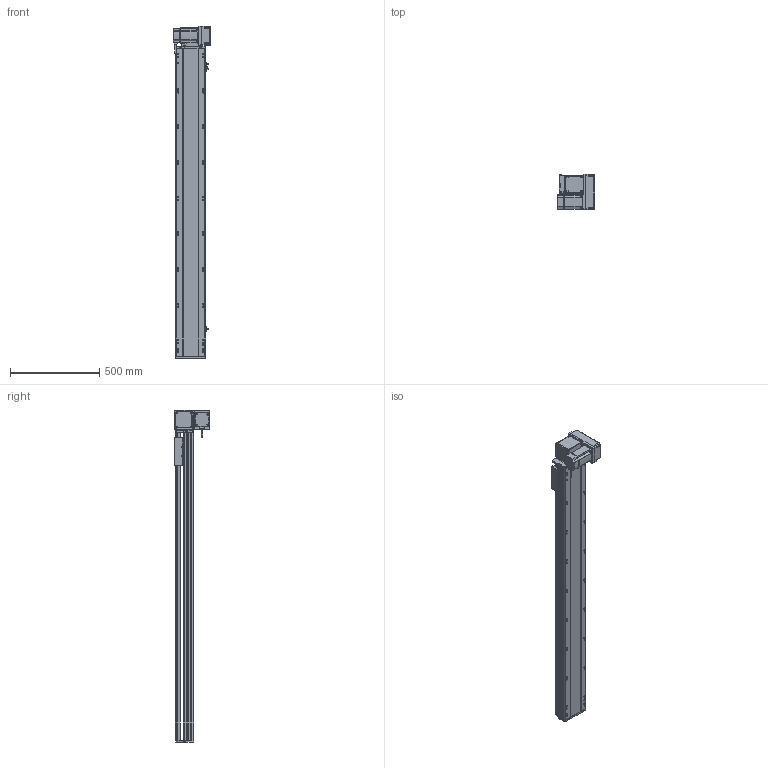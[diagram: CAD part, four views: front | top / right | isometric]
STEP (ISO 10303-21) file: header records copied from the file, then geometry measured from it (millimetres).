
FILE_DESCRIPTION (( 'STEP AP214' ), '1' );
FILE_NAME ('RTB17S-XX-1450-RM-M75-C4.STEP', '2025-12-12T02:08:54', ( '' ), ( '' ), 'SwSTEP 2.0', 'SolidWorks 2018', '' );
FILE_SCHEMA (( 'AUTOMOTIVE_DESIGN' ));
Length unit declared in the file: millimetre
Products named in the file (15): RTB22S-GY-017P^RTB17S-RM-々湍釱蚾饜-750W_RTB17S-XX-XX-RM-M75-C4; RTH13-BL-012覜茼え俋离^RTB17S-賑釱_RTB17S-XX-XX-RM-M75-C4; RTB17S-賑釱^RTB17S-XX-XX-RM-M75-C4; RTB22S-GY-018P^RTB17S-RM-々湍釱蚾饜-750W_RTB17S-XX-XX-RM-M75-C4; RTB17S-RM-々湍釱蚾饜-750W^RTB17S-XX-XX-RM-M75-C4; RTB17S-L-001-耜醱啣^RTB17S-XX-XX-RM-M75-C4; EE672^RTB17S-XX-XX-RM-M75-C4; RTB22S-GY-008-M75--萇儂啣^RTB17S-RM-々湍釱蚾饜-750W_RTB17S-XX-XX-RM-M75-C4; RTB17S-L-007奻裔^RTB17S-XX-XX-RM-M75-C4; RTB17S-XX-1450-RM-M75-C4; 750W萇儂^RTB17S-XX-XX-RM-M75-C4; RTB17S-L-004-賑釱^RTB17S-賑釱_RTB17S-XX-XX-RM-M75-C4; RTB22S-GY-005P^RTB17S-RM-々湍釱蚾饜-750W_RTB17S-XX-XX-RM-M75-C4; RTB17-R-011菁釱^RTB17S-XX-XX-RM-M75-C4; RTB17S-L-014-T20-P75--々湍釱^RTB17S-RM-々湍釱蚾饜-750W_RTB17S-XX-XX-RM-M75-C4
Assembly tree (17 placements, depth 3):
  RTB17S-XX-1450-RM-M75-C4
    RTB17-R-011菁釱^RTB17S-XX-XX-RM-M75-C4
    EE672^RTB17S-XX-XX-RM-M75-C4  x3
    RTB17S-L-001-耜醱啣^RTB17S-XX-XX-RM-M75-C4
    RTB17S-賑釱^RTB17S-XX-XX-RM-M75-C4
      RTB17S-L-004-賑釱^RTB17S-賑釱_RTB17S-XX-XX-RM-M75-C4
      RTH13-BL-012覜茼え俋离^RTB17S-賑釱_RTB17S-XX-XX-RM-M75-C4
    RTB17S-L-007奻裔^RTB17S-XX-XX-RM-M75-C4
    750W萇儂^RTB17S-XX-XX-RM-M75-C4
    RTB17S-RM-々湍釱蚾饜-750W^RTB17S-XX-XX-RM-M75-C4
      RTB17S-L-014-T20-P75--々湍釱^RTB17S-RM-々湍釱蚾饜-750W_RTB17S-XX-XX-RM-M75-C4
      RTB22S-GY-005P^RTB17S-RM-々湍釱蚾饜-750W_RTB17S-XX-XX-RM-M75-C4
      RTB22S-GY-017P^RTB17S-RM-々湍釱蚾饜-750W_RTB17S-XX-XX-RM-M75-C4  x2
      RTB22S-GY-008-M75--萇儂啣^RTB17S-RM-々湍釱蚾饜-750W_RTB17S-XX-XX-RM-M75-C4
      RTB22S-GY-018P^RTB17S-RM-々湍釱蚾饜-750W_RTB17S-XX-XX-RM-M75-C4
Bounding box: 207.4 x 200 x 1857.5 mm (x, y, z)
Volume: 15008918.3 mm3; surface area: 2625465.8 mm2
Topology: 17 solids, 17 shells, 2137 faces, 5944 edges, 3842 vertices
Faces by surface type: plane 976, cylinder 745, bspline 294, cone 110, sphere 8, torus 4
Entity records: 60406 total; most frequent: CARTESIAN_POINT 17808, ORIENTED_EDGE 8732, DIRECTION 8132, EDGE_CURVE 4366, AXIS2_PLACEMENT_3D 2862, VERTEX_POINT 2846, VECTOR 2408, LINE 2408
